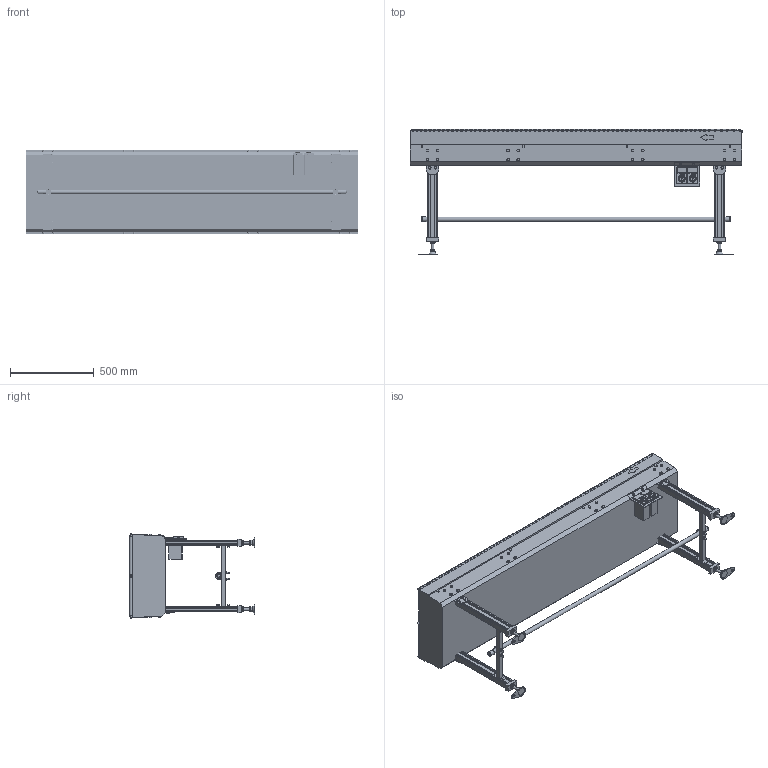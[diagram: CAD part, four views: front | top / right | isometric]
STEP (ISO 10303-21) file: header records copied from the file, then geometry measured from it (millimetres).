
FILE_DESCRIPTION (( 'STEP AP214' ), '1' );
FILE_NAME ('GA22-304x2-400-200-DC-7.5.STEP', '2024-08-08T23:15:20', ( '' ), ( '' ), 'SwSTEP 2.0', 'SolidWorks 2017', '' );
FILE_SCHEMA (( 'AUTOMOTIVE_DESIGN' ));
Length unit declared in the file: millimetre
Products named in the file (1): GA22-304x2-400-200-DC-7.5
Bounding box: 1985 x 750 x 504.9 mm (x, y, z)
Volume: 209351485 mm3; surface area: 6625158 mm2
Topology: 19 solids, 19 shells, 3019 faces, 7520 edges, 4990 vertices
Faces by surface type: plane 2074, cylinder 911, cone 18, torus 16
Full cylindrical faces by diameter (mm): 4.5 x8, 6 x142, 7 x4, 8 x284, 8.723 x8, 12.2 x2, 13 x4, 15.4 x48, 16 x8, 17 x12, 25.4 x1, 28.4 x2, 29.825 x2, 30 x4
Entity records: 118114 total; most frequent: CARTESIAN_POINT 17271, DIRECTION 13599, ORIENTED_EDGE 13322, EDGE_CURVE 6661, VERTEX_POINT 4686, AXIS2_PLACEMENT_3D 4624, LINE 4351, VECTOR 4351
